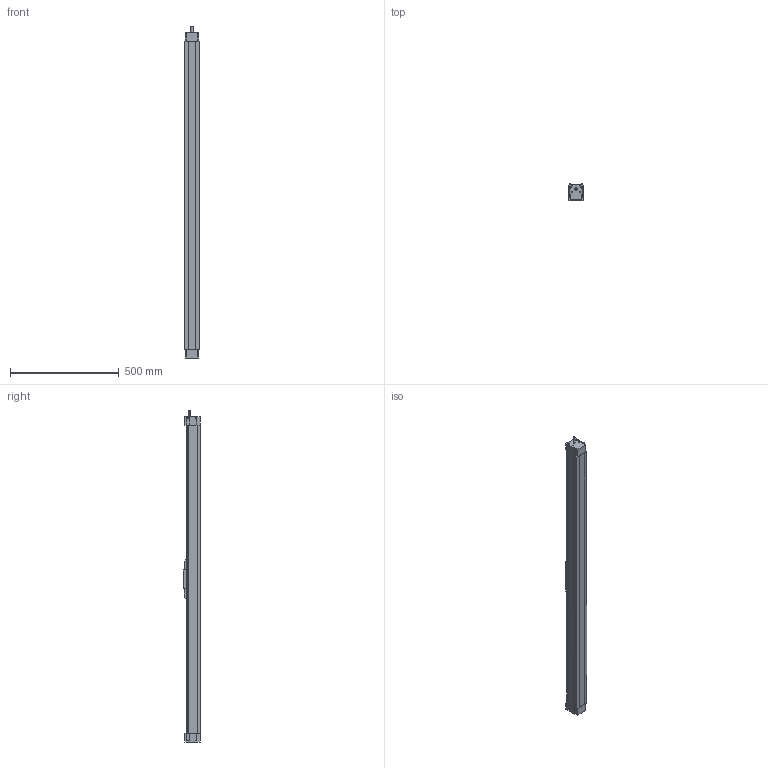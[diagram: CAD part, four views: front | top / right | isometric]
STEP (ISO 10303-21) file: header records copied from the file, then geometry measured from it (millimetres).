
FILE_DESCRIPTION (( 'STEP AP203' ), '1' );
FILE_NAME ('MSX65B-1200-LL1610-P7.STEP', '2013-11-02T02:58:22', ( '微软用户' ), ( '微软中国' ), 'SwSTEP 2.0', 'SolidWorks 2010', '' );
FILE_SCHEMA (( 'CONFIG_CONTROL_DESIGN' ));
Length unit declared in the file: millimetre
Products named in the file (1): MSX65B-1200-LL1610-P7
Bounding box: 65 x 79 x 1530 mm (x, y, z)
Volume: 5933165.6 mm3; surface area: 754565.6 mm2
Topology: 2 solids, 2 shells, 405 faces, 1036 edges, 638 vertices
Faces by surface type: plane 319, cylinder 66, cone 20
Entity records: 12073 total; most frequent: DIRECTION 2080, CARTESIAN_POINT 2068, ORIENTED_EDGE 2048, EDGE_CURVE 1024, VECTOR 780, LINE 780, AXIS2_PLACEMENT_3D 650, VERTEX_POINT 638
